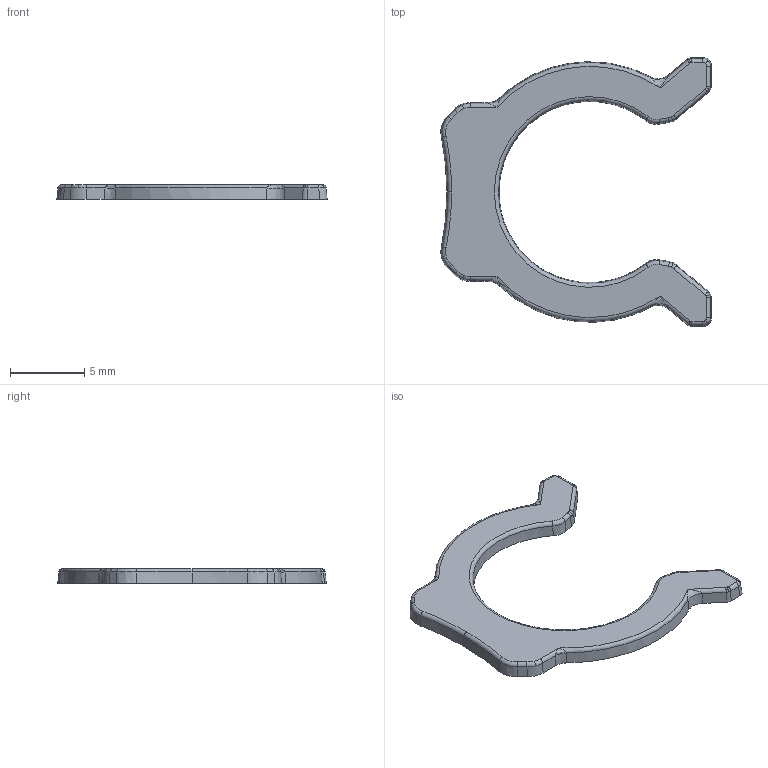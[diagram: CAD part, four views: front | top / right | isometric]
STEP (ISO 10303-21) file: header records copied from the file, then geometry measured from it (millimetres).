
FILE_DESCRIPTION (( 'STEP AP214' ), '1' );
FILE_NAME ('509800032X9ROB.STEP', '2016-12-19T06:45:23', ( '' ), ( '' ), 'SwSTEP 2.0', 'SolidWorks 2016', '' );
FILE_SCHEMA (( 'AUTOMOTIVE_DESIGN' ));
Length unit declared in the file: millimetre
Products named in the file (2): 509800032X9ROB
Bounding box: 18.2 x 18.07 x 1 mm (x, y, z)
Volume: 125.8 mm3; surface area: 336.7 mm2
Topology: 1 solids, 1 shells, 86 faces, 215 edges, 127 vertices
Faces by surface type: bspline 36, cylinder 24, plane 16, torus 5, cone 5
Entity records: 3046 total; most frequent: CARTESIAN_POINT 1332, ORIENTED_EDGE 422, DIRECTION 273, EDGE_CURVE 211, VERTEX_POINT 127, AXIS2_PLACEMENT_3D 105, EDGE_LOOP 86, ADVANCED_FACE 86
